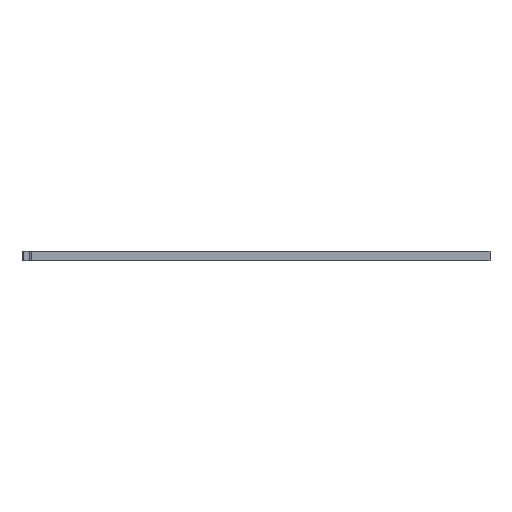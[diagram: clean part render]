
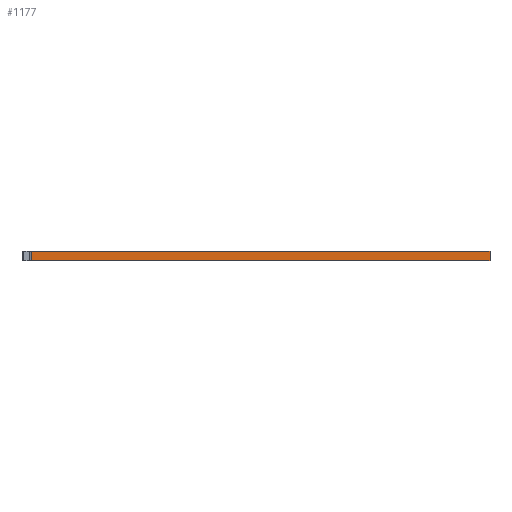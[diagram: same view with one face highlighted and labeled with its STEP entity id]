
A CAD part, left-side view. The second image highlights one B-rep face of the part: STEP entity #1177.
In plain terms, the highlighted planar face has unit normal (-1, 0, 0).
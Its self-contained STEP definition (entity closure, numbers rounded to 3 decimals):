
#66=FACE_OUTER_BOUND($,#175,.T.);
#175=EDGE_LOOP($,(#1068,#1069,#1070,#1071));
#236=LINE($,#1665,#360);
#301=LINE($,#1848,#425);
#313=LINE($,#1886,#437);
#346=LINE($,#1950,#470);
#360=VECTOR($,#1323,550.);
#425=VECTOR($,#1480,550.);
#437=VECTOR($,#1512,12.);
#470=VECTOR($,#1607,12.);
#494=VERTEX_POINT($,#1662);
#495=VERTEX_POINT($,#1664);
#566=VERTEX_POINT($,#1845);
#567=VERTEX_POINT($,#1847);
#606=EDGE_CURVE($,#494,#495,#236,.T.);
#697=EDGE_CURVE($,#566,#567,#301,.T.);
#717=EDGE_CURVE($,#494,#567,#313,.T.);
#750=EDGE_CURVE($,#495,#566,#346,.T.);
#1068=ORIENTED_EDGE($,*,*,#606,.F.);
#1069=ORIENTED_EDGE($,*,*,#717,.T.);
#1070=ORIENTED_EDGE($,*,*,#697,.F.);
#1071=ORIENTED_EDGE($,*,*,#750,.F.);
#1119=PLANE($,#1282);
#1177=ADVANCED_FACE($,(#66),#1119,.T.);
#1282=AXIS2_PLACEMENT_3D($,#1949,#1605,#1606);
#1323=DIRECTION($,(0.,1.,0.));
#1480=DIRECTION($,(0.,-1.,0.));
#1512=DIRECTION($,(0.,0.,1.));
#1605=DIRECTION('center_axis',(-1.,0.,0.));
#1606=DIRECTION('ref_axis',(0.,-1.,0.));
#1607=DIRECTION($,(0.,0.,1.));
#1662=CARTESIAN_POINT('',(-225.,-275.,0.));
#1664=CARTESIAN_POINT('',(-225.,275.,0.));
#1665=CARTESIAN_POINT($,(-225.,-275.,0.));
#1845=CARTESIAN_POINT('',(-225.,275.,12.));
#1847=CARTESIAN_POINT('',(-225.,-275.,12.));
#1848=CARTESIAN_POINT($,(-225.,-275.,12.));
#1886=CARTESIAN_POINT($,(-225.,-275.,0.));
#1949=CARTESIAN_POINT('Origin',(-225.,275.,0.));
#1950=CARTESIAN_POINT($,(-225.,275.,0.));
